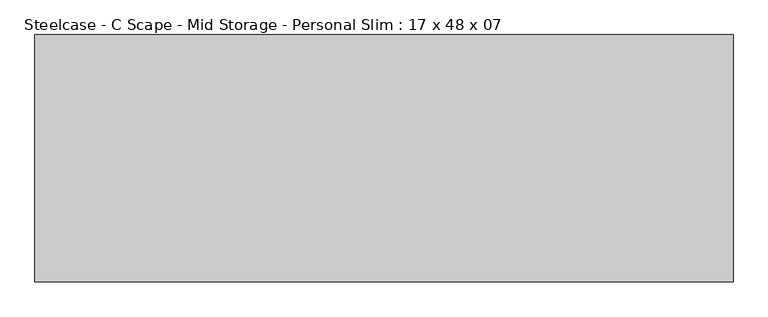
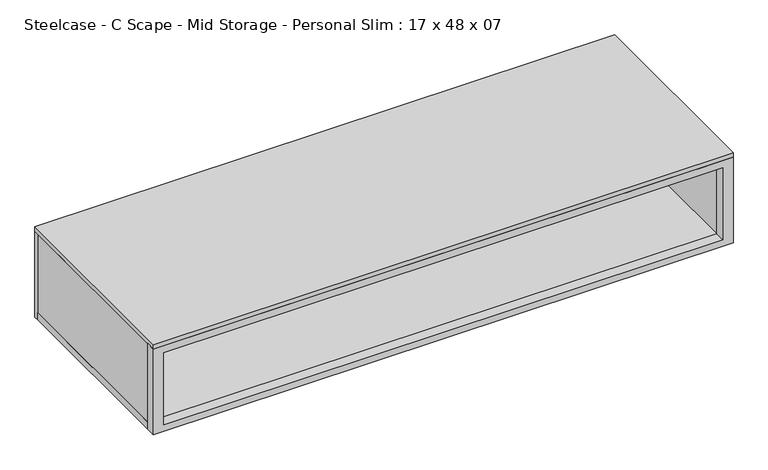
"""IFC4 building model written with IfcOpenShell, lengths in millimetres: furniture geometry, Steelcase - C Scape - Mid Storage - Personal Slim : 17 x 48 x 07."""

from ifc_helpers import new_model, si_unit, frame, origin, place, context, project, spatial, polyline, outline, extrude, source, transform, mapped, element, save


def steelcase_c_scape_mid_storage_personal_slim_17_x_48_x_07_25765521(model_context):
    return source(origin(), model_context, "Body", "SweptSolid", [
        extrude(outline(polyline([(1028.7, 1219.2), (1028.7, 0.0), (838.2, 0.0), (838.2, 1219.2), (1028.7, 1219.2)]), holes=[polyline([(853.4399855, 21.9711633), (1013.46, 21.9711633), (1013.46, 1197.102), (853.4399855, 1197.102), (853.4399855, 21.9711633)])]), frame((0.0, -215.9, 0.0), z_axis=(0.0, 1.0, 0.0), x_axis=(0.0, 0.0, 1.0)), (0.0, 0.0, 1.0), 21.4627892),
        extrude(outline(polyline([(1219.2, 206.3755809), (1219.2, -194.4372108), (0.0, -194.4372108), (0.0, 206.3755809), (1219.2, 206.3755809)])), frame((0.0, 0.0, 838.2), z_axis=(0.0, 0.0, 1.0), x_axis=(1.0, 0.0, 0.0)), (0.0, 0.0, 1.0), 15.2399855),
        extrude(outline(polyline([(1219.2, 215.9), (1219.2, -215.9), (0.0, -215.9), (0.0, 215.9), (1219.2, 215.9)])), frame((0.0, 0.0, 1028.7), z_axis=(0.0, 0.0, 1.0), x_axis=(1.0, 0.0, 0.0)), (0.0, 0.0, 1.0), 10.1599903),
        extrude(outline(polyline([(1219.2, 215.9), (1219.2, 206.3755809), (0.0, 206.3755809), (0.0, 215.9), (1219.2, 215.9)])), frame((0.0, 0.0, 838.2), z_axis=(0.0, 0.0, 1.0), x_axis=(1.0, 0.0, 0.0)), (0.0, 0.0, 1.0), 190.5),
        extrude(outline(polyline([(21.9711633, 206.3755809), (21.9711633, -194.4372108), (0.0, -194.4372108), (0.0, 206.3755809), (21.9711633, 206.3755809)])), frame((0.0, 0.0, 853.4399855), z_axis=(0.0, 0.0, 1.0), x_axis=(1.0, 0.0, 0.0)), (0.0, 0.0, 1.0), 175.2600145),
        extrude(outline(polyline([(1197.102, 206.3755809), (1219.2, 206.3755809), (1219.2, -194.4372108), (1197.102, -194.4372108), (1197.102, 206.3755809)])), frame((0.0, 0.0, 853.4399855), z_axis=(0.0, 0.0, 1.0), x_axis=(1.0, 0.0, 0.0)), (0.0, 0.0, 1.0), 175.2600145),
    ])


if __name__ == "__main__":
    model = new_model("IFC4")
    model_context = context("Model", 3, world=origin())
    ifc_project = project(units=[si_unit("LENGTHUNIT", "METRE", prefix="MILLI")], contexts=[model_context])
    site = spatial("IfcSite", under=ifc_project)
    building = spatial("IfcBuilding", under=site)
    placement = place(None, origin())
    steelcase_c_scape_mid_storage_personal_slim_17_x_48_x_07_shape = steelcase_c_scape_mid_storage_personal_slim_17_x_48_x_07_25765521(model_context)
    element("IfcFurniture", 1, ObjectType="Steelcase - C Scape - Mid Storage - Personal Slim : 17 x 48 x 07", at=placement, inside=building, context=model_context, shape_type="MappedRepresentation", body=[
        mapped(steelcase_c_scape_mid_storage_personal_slim_17_x_48_x_07_shape, transform((0.0, 0.0, 0.0), x_axis=(1.0, 0.0, 0.0), y_axis=(0.0, 1.0, 0.0), z_axis=(0.0, 0.0, 1.0))),
    ])
    save(model, "model.ifc")
